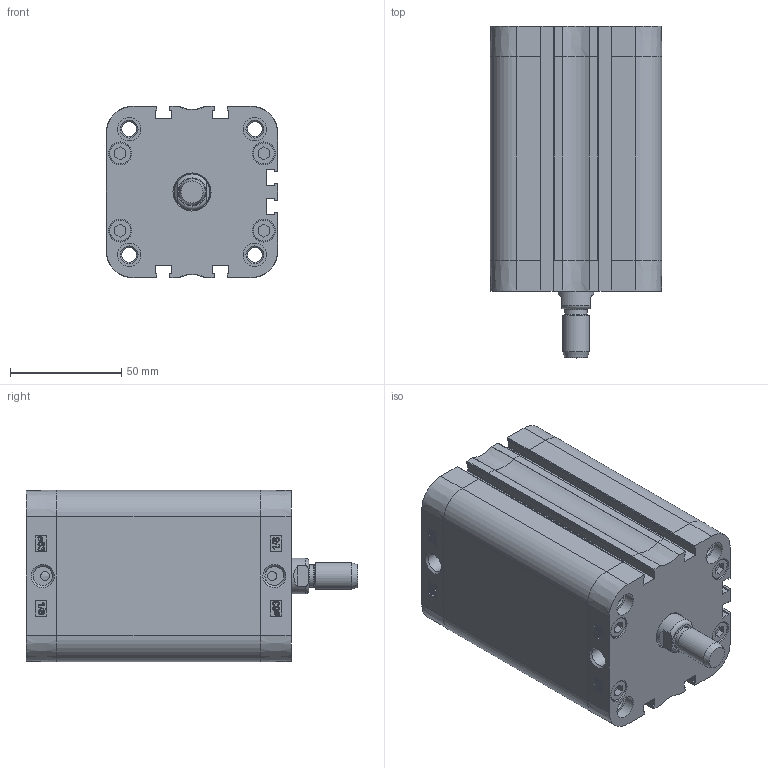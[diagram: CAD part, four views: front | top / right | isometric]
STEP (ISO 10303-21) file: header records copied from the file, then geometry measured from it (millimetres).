
FILE_DESCRIPTION((''),'2;1');
FILE_NAME('T:\Archivio Inventor\- CATALOGHI 2012\SERIE P - NUOVA\PDM\PDM063\PDM063.---.GS.M\PDM063.070.GS.M.stp','2013-02-04T09:28:20',('Administrator'),(''),'Autodesk Inventor 2012','Autodesk Inventor 2012','');
FILE_SCHEMA(('CONFIG_CONTROL_DESIGN'));
Length unit declared in the file: millimetre
Products named in the file (1): PDM063.070.GS.M
Bounding box: 77 x 149 x 77 mm (x, y, z)
Volume: 303456.6 mm3; surface area: 116718.3 mm2
Topology: 1 solids, 5 shells, 824 faces, 1993 edges, 1252 vertices
Faces by surface type: plane 346, bspline 218, cylinder 142, torus 55, cone 45, sphere 18
Full cylindrical faces by diameter (mm): 4 x2, 6.3 x4, 6.647 x8, 8.047 x4, 8.566 x2, 9.8 x8, 10 x1, 10.3 x8, 10.5 x8, 12 x2, 16 x1, 16.5 x1, 63 x1, 65.4 x1, 65.6 x1
Entity records: 27348 total; most frequent: CARTESIAN_POINT 9100, ORIENTED_EDGE 3744, DIRECTION 3031, EDGE_CURVE 1872, VERTEX_POINT 1231, AXIS2_PLACEMENT_3D 1026, EDGE_LOOP 1003, VECTOR 979
